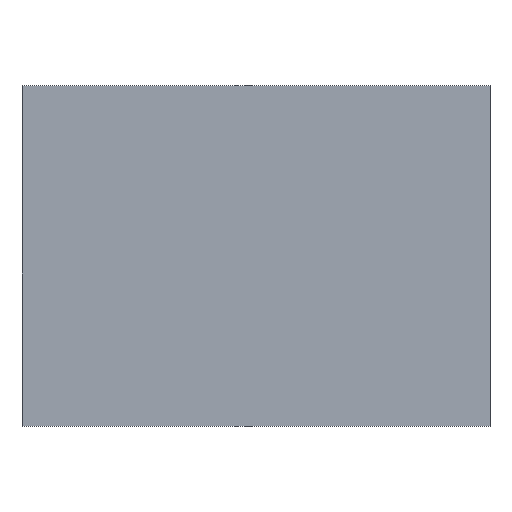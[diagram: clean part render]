
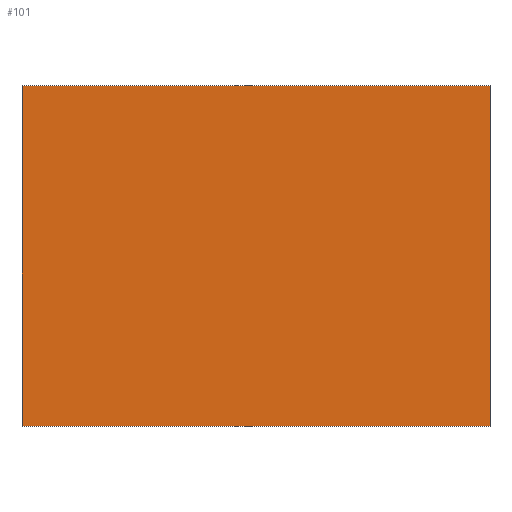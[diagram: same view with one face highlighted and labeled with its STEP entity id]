
A CAD part, top view. The second image highlights one B-rep face of the part: STEP entity #101.
In plain terms, the highlighted planar face has unit normal (0, 0, 1).
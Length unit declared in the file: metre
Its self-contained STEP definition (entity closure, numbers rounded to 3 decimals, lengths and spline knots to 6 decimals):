
#24=ORIENTED_EDGE('',*,*,#46,.T.);
#25=ORIENTED_EDGE('',*,*,#43,.F.);
#26=ORIENTED_EDGE('',*,*,#40,.F.);
#27=ORIENTED_EDGE('',*,*,#38,.F.);
#38=EDGE_CURVE('',#50,#51,#58,.T.);
#40=EDGE_CURVE('',#51,#52,#60,.T.);
#43=EDGE_CURVE('',#52,#54,#63,.F.);
#46=EDGE_CURVE('',#50,#54,#66,.F.);
#50=VERTEX_POINT('',#147);
#51=VERTEX_POINT('',#149);
#52=VERTEX_POINT('',#153);
#54=VERTEX_POINT('',#159);
#58=LINE('',#148,#70);
#60=LINE('',#152,#72);
#63=LINE('',#158,#75);
#66=LINE('',#164,#78);
#70=VECTOR('',#121,1.);
#72=VECTOR('',#125,1.);
#75=VECTOR('',#130,1.);
#78=VECTOR('',#135,1.);
#83=EDGE_LOOP('',(#24,#25,#26,#27));
#89=FACE_BOUND('',#83,.T.);
#95=PLANE('',#112);
#101=ADVANCED_FACE('',(#89),#95,.T.);
#112=AXIS2_PLACEMENT_3D('',#163,#133,#134);
#121=DIRECTION('',(-1.,0.,0.));
#125=DIRECTION('',(0.,1.,0.));
#130=DIRECTION('',(-1.,0.,0.));
#133=DIRECTION('',(0.,0.,1.));
#134=DIRECTION('',(-1.,0.,0.));
#135=DIRECTION('',(0.,-1.,0.));
#147=CARTESIAN_POINT('',(-0.0387,0.0055,-0.02795));
#148=CARTESIAN_POINT('',(-0.0398,0.0055,-0.02795));
#149=CARTESIAN_POINT('',(-0.0398,0.0055,-0.02795));
#152=CARTESIAN_POINT('',(-0.0398,0.0055,-0.02795));
#153=CARTESIAN_POINT('',(-0.0398,0.0063,-0.02795));
#158=CARTESIAN_POINT('',(-0.0398,0.0063,-0.02795));
#159=CARTESIAN_POINT('',(-0.0387,0.0063,-0.02795));
#163=CARTESIAN_POINT('',(-0.0398,0.0055,-0.02795));
#164=CARTESIAN_POINT('',(-0.0387,0.0055,-0.02795));
